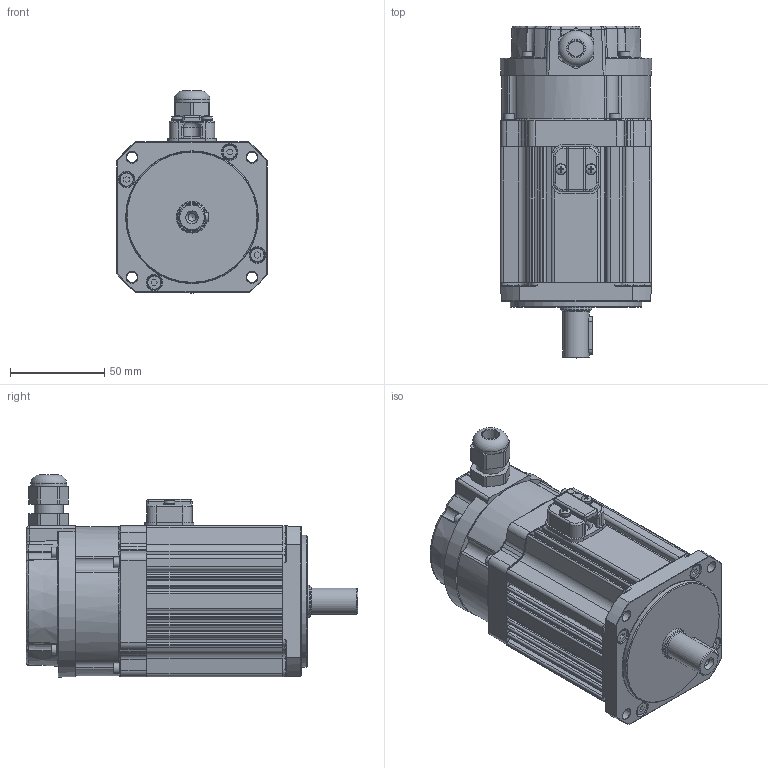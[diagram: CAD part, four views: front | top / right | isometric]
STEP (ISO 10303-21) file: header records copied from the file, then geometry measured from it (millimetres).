
FILE_DESCRIPTION(('STEP AP203'),'1');
FILE_NAME('B101E-D2RB.stp','2021-04-14T07:04:37',(' '),(' '),'Spatial InterOp 3D',' ',' ');
FILE_SCHEMA(('CONFIG_CONTROL_DESIGN'));
Length unit declared in the file: millimetre
Products named in the file (1): B101E-D2RB
Bounding box: 80.41 x 176 x 107.23 mm (x, y, z)
Volume: 777346.7 mm3; surface area: 79514.8 mm2
Topology: 1 solids, 9 shells, 1751 faces, 4196 edges, 2478 vertices
Faces by surface type: plane 767, cone 449, cylinder 343, torus 123, bspline 51, sphere 11, revolution 7
Full cylindrical faces by diameter (mm): 2.5 x4, 3 x10, 3.3 x5, 3.5 x8, 4 x4, 4.2 x1, 5.5 x8, 5.6 x2, 7 x4, 8 x1, 8.5 x1, 14 x1, 15.2 x1, 16.8 x1, 19 x1, 70 x1
Entity records: 53880 total; most frequent: CARTESIAN_POINT 14402, DIRECTION 8512, ORIENTED_EDGE 7906, EDGE_CURVE 3953, AXIS2_PLACEMENT_3D 3235, VERTEX_POINT 2394, LINE 2035, VECTOR 2035
